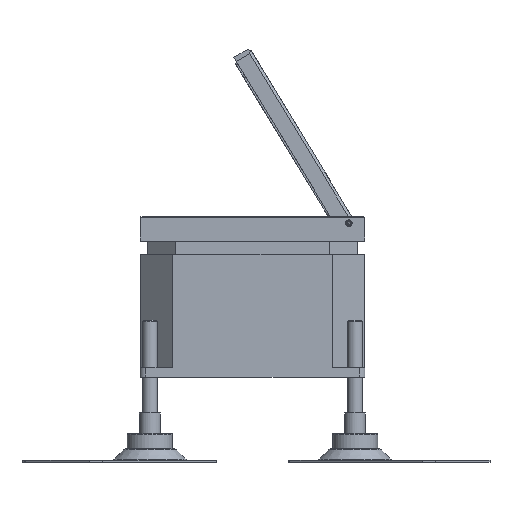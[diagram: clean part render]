
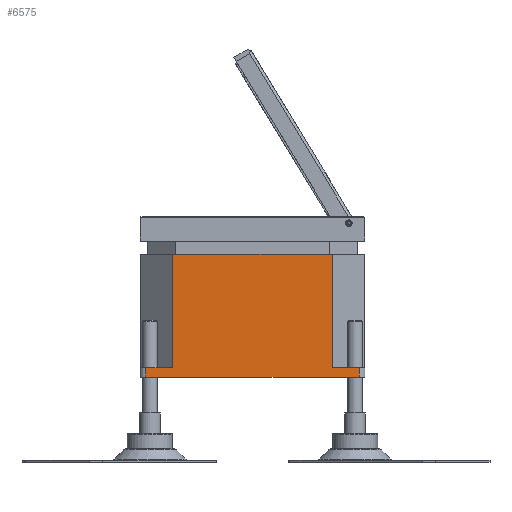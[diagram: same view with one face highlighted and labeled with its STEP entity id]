
A CAD part, left-side view. The second image highlights one B-rep face of the part: STEP entity #6575.
In plain terms, the highlighted planar face has unit normal (-1, 0, 0).
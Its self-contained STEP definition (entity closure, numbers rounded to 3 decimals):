
#774=FACE_OUTER_BOUND('',#1168,.T.);
#1168=EDGE_LOOP('',(#4783,#4784,#4785,#4786,#4787,#4788,#4789,#4790));
#1561=LINE('',#9893,#2177);
#1570=LINE('',#9948,#2186);
#1572=LINE('',#9954,#2188);
#1579=LINE('',#9969,#2195);
#1638=LINE('',#10134,#2254);
#1647=LINE('',#10151,#2263);
#1648=LINE('',#10153,#2264);
#1649=LINE('',#10157,#2265);
#2177=VECTOR('',#7941,10.);
#2186=VECTOR('',#7992,10.);
#2188=VECTOR('',#7998,10.);
#2195=VECTOR('',#8009,10.);
#2254=VECTOR('',#8180,10.);
#2263=VECTOR('',#8201,10.);
#2264=VECTOR('',#8204,10.);
#2265=VECTOR('',#8211,10.);
#2796=VERTEX_POINT('',#9890);
#2797=VERTEX_POINT('',#9892);
#2822=VERTEX_POINT('',#9946);
#2823=VERTEX_POINT('',#9950);
#2830=VERTEX_POINT('',#9968);
#2879=VERTEX_POINT('',#10131);
#2880=VERTEX_POINT('',#10133);
#2882=VERTEX_POINT('',#10149);
#3465=EDGE_CURVE('',#2796,#2797,#1561,.T.);
#3493=EDGE_CURVE('',#2822,#2796,#1570,.T.);
#3496=EDGE_CURVE('',#2797,#2823,#1572,.T.);
#3503=EDGE_CURVE('',#2830,#2823,#1579,.T.);
#3584=EDGE_CURVE('',#2880,#2879,#1638,.T.);
#3593=EDGE_CURVE('',#2822,#2882,#1647,.T.);
#3594=EDGE_CURVE('',#2882,#2880,#1648,.T.);
#3595=EDGE_CURVE('',#2879,#2830,#1649,.T.);
#4783=ORIENTED_EDGE('',*,*,#3493,.F.);
#4784=ORIENTED_EDGE('',*,*,#3593,.T.);
#4785=ORIENTED_EDGE('',*,*,#3594,.T.);
#4786=ORIENTED_EDGE('',*,*,#3584,.T.);
#4787=ORIENTED_EDGE('',*,*,#3595,.T.);
#4788=ORIENTED_EDGE('',*,*,#3503,.T.);
#4789=ORIENTED_EDGE('',*,*,#3496,.F.);
#4790=ORIENTED_EDGE('',*,*,#3465,.F.);
#6316=PLANE('',#7242);
#6575=ADVANCED_FACE('',(#774),#6316,.T.);
#7242=AXIS2_PLACEMENT_3D('',#10158,#8212,#8213);
#7941=DIRECTION('',(0.,1.,0.));
#7992=DIRECTION('',(0.,0.,-1.));
#7998=DIRECTION('',(0.,0.,1.));
#8009=DIRECTION('',(0.,1.,0.));
#8180=DIRECTION('',(0.,1.,0.));
#8201=DIRECTION('',(0.,1.,0.));
#8204=DIRECTION('',(0.,0.,1.));
#8211=DIRECTION('',(0.,0.,-1.));
#8212=DIRECTION('center_axis',(-1.,0.,0.));
#8213=DIRECTION('ref_axis',(0.,-1.,0.));
#9890=CARTESIAN_POINT('',(-59.5,-56.5,0.));
#9892=CARTESIAN_POINT('',(-59.5,56.5,0.));
#9893=CARTESIAN_POINT('',(-59.5,-59.5,0.));
#9946=CARTESIAN_POINT('',(-59.5,-56.5,5.));
#9948=CARTESIAN_POINT('',(-59.5,-56.5,0.));
#9950=CARTESIAN_POINT('',(-59.5,56.5,5.));
#9954=CARTESIAN_POINT('',(-59.5,56.5,0.));
#9968=CARTESIAN_POINT('',(-59.5,42.323,5.));
#9969=CARTESIAN_POINT('',(-59.5,29.75,5.));
#10131=CARTESIAN_POINT('',(-59.5,42.323,65.));
#10133=CARTESIAN_POINT('',(-59.5,-42.323,65.));
#10134=CARTESIAN_POINT('',(-59.5,29.75,65.));
#10149=CARTESIAN_POINT('',(-59.5,-42.323,5.));
#10151=CARTESIAN_POINT('',(-59.5,29.75,5.));
#10153=CARTESIAN_POINT('',(-59.5,-42.323,0.));
#10157=CARTESIAN_POINT('',(-59.5,42.323,0.));
#10158=CARTESIAN_POINT('Origin',(-59.5,59.5,0.));
